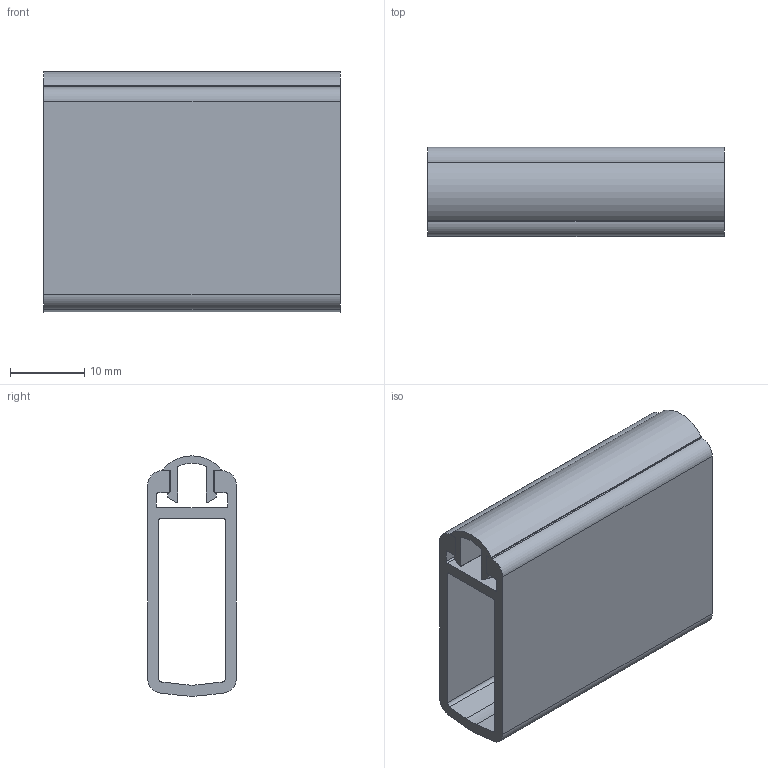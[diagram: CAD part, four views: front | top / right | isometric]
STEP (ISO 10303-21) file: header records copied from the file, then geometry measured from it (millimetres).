
FILE_DESCRIPTION(('CATIA V5 STEP Exchange','CAx-IF Rec.Pracs.--- Model Styling and Organization---1.4--- 2014-01-23','CAx-IF Rec.Pracs.---3D Tessellated Data Validation Properties---0.5---2014-09-14'),'2;1');
FILE_NAME('C:\Users\Admin\Downloads\WORK FL\FL2\28.09\stp\CT1.stp','2023-09-30T04:43:30+00:00',('none'),('none'),'CATIA Version 5-6 Release 2018 SP6','CATIA V5 STEP AP242','none');
FILE_SCHEMA(('AP242_MANAGED_MODEL_BASED_3D_ENGINEERING_MIM_LF {1 0 10303 442 1 1 4}'));
Length unit declared in the file: millimetre
Products named in the file (1): CT1
Bounding box: 40 x 12 x 32.42 mm (x, y, z)
Volume: 5531.5 mm3; surface area: 8039.2 mm2
Topology: 2 solids, 2 shells, 64 faces, 180 edges, 120 vertices
Faces by surface type: plane 34, cylinder 30
Entity records: 2042 total; most frequent: CARTESIAN_POINT 362, ORIENTED_EDGE 360, DIRECTION 302, EDGE_CURVE 180, AXIS2_PLACEMENT_3D 122, VECTOR 120, LINE 120, VERTEX_POINT 120
